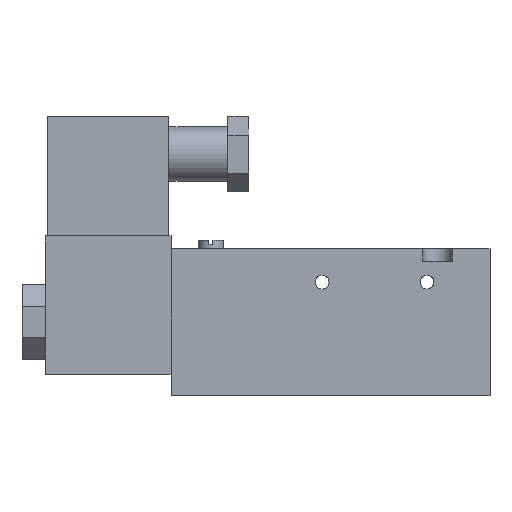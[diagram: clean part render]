
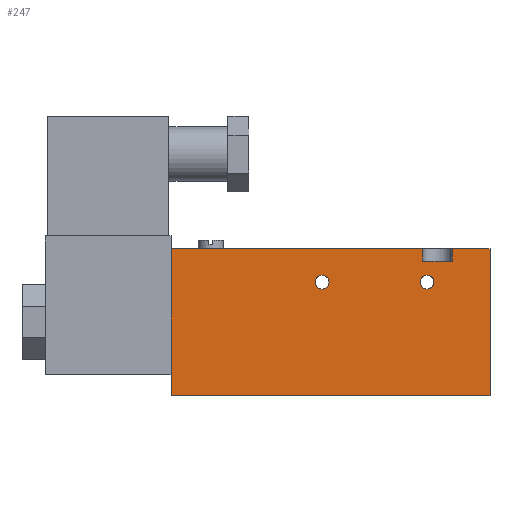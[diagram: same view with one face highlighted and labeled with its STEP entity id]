
A CAD part, top view. The second image highlights one B-rep face of the part: STEP entity #247.
In plain terms, the highlighted planar face has unit normal (0, 0, 1).
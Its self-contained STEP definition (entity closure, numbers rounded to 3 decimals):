
#247=ADVANCED_FACE('',(#522,#524,#526),#528,.T.);
#522=FACE_BOUND('',#523,.T.);
#523=EDGE_LOOP('',(#943,#944,#945,#946,#947,#948,#949,#950));
#524=FACE_BOUND('',#525,.T.);
#525=EDGE_LOOP('',(#951));
#526=FACE_BOUND('',#527,.T.);
#527=EDGE_LOOP('',(#952));
#528=PLANE('',#529);
#529=AXIS2_PLACEMENT_3D('',#530,#531,#532);
#530=CARTESIAN_POINT('',(-76.,17.5,11.));
#531=DIRECTION('',(0.,0.,1.));
#532=DIRECTION('',(0.,-1.,0.));
#943=ORIENTED_EDGE('',*,*,#1165,.T.);
#944=ORIENTED_EDGE('',*,*,#1143,.F.);
#945=ORIENTED_EDGE('',*,*,#1127,.T.);
#946=ORIENTED_EDGE('',*,*,#1160,.T.);
#947=ORIENTED_EDGE('',*,*,#1166,.F.);
#948=ORIENTED_EDGE('',*,*,#1147,.F.);
#949=ORIENTED_EDGE('',*,*,#1167,.T.);
#950=ORIENTED_EDGE('',*,*,#1168,.T.);
#951=ORIENTED_EDGE('',*,*,#1169,.T.);
#952=ORIENTED_EDGE('',*,*,#1170,.T.);
#1127=EDGE_CURVE('',#1298,#1296,#1299,.T.);
#1143=EDGE_CURVE('',#1298,#1324,#1325,.T.);
#1147=EDGE_CURVE('',#1330,#1332,#1333,.T.);
#1160=EDGE_CURVE('',#1296,#1353,#1355,.T.);
#1165=EDGE_CURVE('',#1364,#1324,#1365,.F.);
#1166=EDGE_CURVE('',#1332,#1353,#1366,.T.);
#1167=EDGE_CURVE('',#1330,#1367,#1368,.F.);
#1168=EDGE_CURVE('',#1367,#1364,#1369,.T.);
#1169=EDGE_CURVE('',#1370,#1370,#1371,.F.);
#1170=EDGE_CURVE('',#1372,#1372,#1373,.F.);
#1296=VERTEX_POINT('',#1620);
#1298=VERTEX_POINT('',#1624);
#1299=LINE('',#1625,#1626);
#1324=VERTEX_POINT('',#1684);
#1325=LINE('',#1685,#1686);
#1330=VERTEX_POINT('',#1697);
#1332=VERTEX_POINT('',#1701);
#1333=LINE('',#1702,#1703);
#1353=VERTEX_POINT('',#1750);
#1355=LINE('',#1754,#1755);
#1364=VERTEX_POINT('',#1777);
#1365=LINE('',#1778,#1779);
#1366=LINE('',#1781,#1782);
#1367=VERTEX_POINT('',#1784);
#1368=LINE('',#1785,#1786);
#1369=LINE('',#1788,#1789);
#1370=VERTEX_POINT('',#1791);
#1371=CIRCLE('',#1792,1.65);
#1372=VERTEX_POINT('',#1796);
#1373=CIRCLE('',#1797,1.65);
#1620=CARTESIAN_POINT('',(-76.,-17.5,11.));
#1624=CARTESIAN_POINT('',(-76.,17.5,11.));
#1625=CARTESIAN_POINT('',(-76.,17.5,11.));
#1626=VECTOR('',#1627,1.);
#1627=DIRECTION('',(0.,-1.,0.));
#1684=CARTESIAN_POINT('',(-16.,17.5,11.));
#1685=CARTESIAN_POINT('',(-76.,17.5,11.));
#1686=VECTOR('',#1687,1.);
#1687=DIRECTION('',(1.,0.,0.));
#1697=CARTESIAN_POINT('',(-9.,17.5,11.));
#1701=CARTESIAN_POINT('',(0.,17.5,11.));
#1702=CARTESIAN_POINT('',(-9.,17.5,11.));
#1703=VECTOR('',#1704,1.);
#1704=DIRECTION('',(1.,0.,0.));
#1750=CARTESIAN_POINT('',(0.,-17.5,11.));
#1754=CARTESIAN_POINT('',(-76.,-17.5,11.));
#1755=VECTOR('',#1756,1.);
#1756=DIRECTION('',(1.,0.,0.));
#1777=CARTESIAN_POINT('',(-16.,14.5,11.));
#1778=CARTESIAN_POINT('',(-16.,17.5,11.));
#1779=VECTOR('',#1780,1.);
#1780=DIRECTION('',(0.,-1.,0.));
#1781=CARTESIAN_POINT('',(0.,17.5,11.));
#1782=VECTOR('',#1783,1.);
#1783=DIRECTION('',(0.,-1.,0.));
#1784=CARTESIAN_POINT('',(-9.,14.5,11.));
#1785=CARTESIAN_POINT('',(-9.,14.5,11.));
#1786=VECTOR('',#1787,1.);
#1787=DIRECTION('',(0.,1.,0.));
#1788=CARTESIAN_POINT('',(-9.,14.5,11.));
#1789=VECTOR('',#1790,1.);
#1790=DIRECTION('',(-1.,0.,0.));
#1791=CARTESIAN_POINT('',(-13.35,9.5,11.));
#1792=AXIS2_PLACEMENT_3D('',#1793,#1794,#1795);
#1793=CARTESIAN_POINT('',(-15.,9.5,11.));
#1794=DIRECTION('',(0.,0.,1.));
#1795=DIRECTION('',(1.,0.,0.));
#1796=CARTESIAN_POINT('',(-38.35,9.5,11.));
#1797=AXIS2_PLACEMENT_3D('',#1798,#1799,#1800);
#1798=CARTESIAN_POINT('',(-40.,9.5,11.));
#1799=DIRECTION('',(0.,0.,1.));
#1800=DIRECTION('',(1.,0.,0.));
